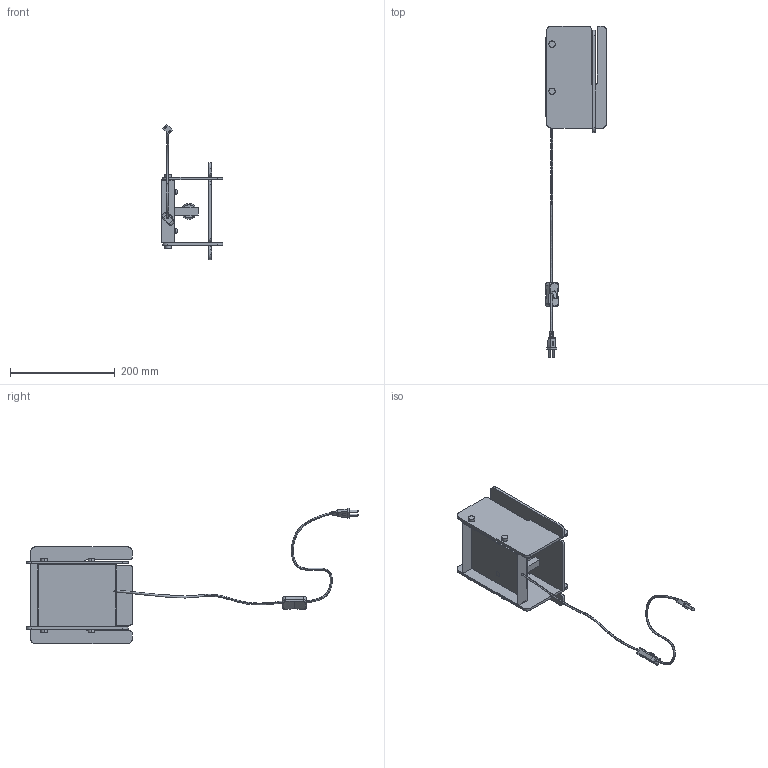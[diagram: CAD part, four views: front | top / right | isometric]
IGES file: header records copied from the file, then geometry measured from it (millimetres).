
Start section: SolidWorks IGES file using analytic representation for surfaces
Global section: file name: F:\燠隴矨\3D\2026-7\Blason Plug-in Wall Light.IGS,15; native system: HSolidWorks 2022; preprocessor: SolidWorks 2022; author: MyPC; date: 260710.201737; units: millimetre
Bounding box: 117.61 x 634.18 x 258.89 mm (x, y, z)
Surface area: 257370.8 mm2 (no closed solid volume)
Topology: 0 solids, 0 shells, 250 faces, 2582 edges, 2581 vertices
Faces by surface type: bspline 173, revolution 77
